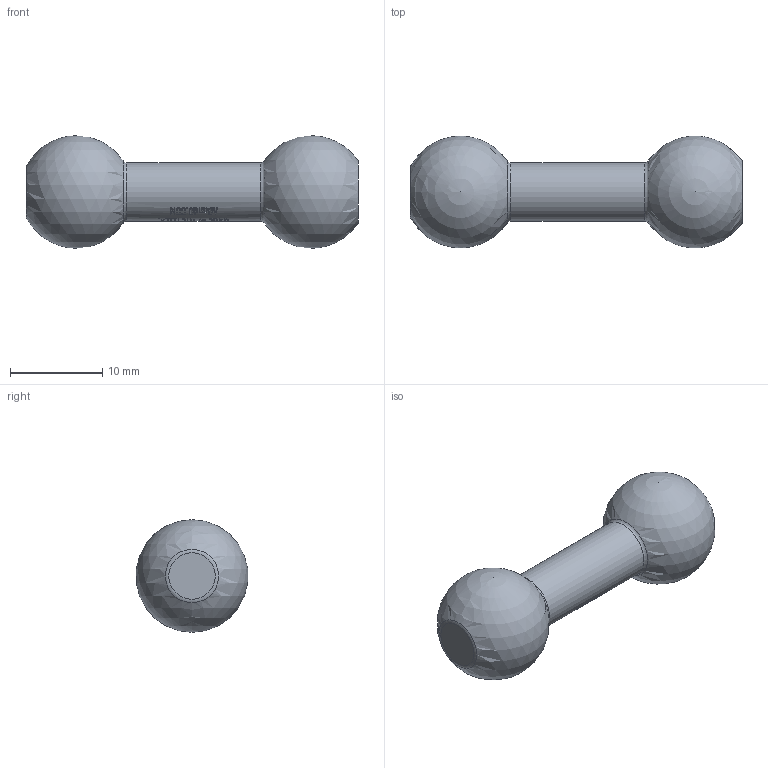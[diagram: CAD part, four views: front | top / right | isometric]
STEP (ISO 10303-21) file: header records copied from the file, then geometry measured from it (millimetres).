
FILE_DESCRIPTION(/* description */ ('JRPL 1IN HYPERLINK'),/* implementation_level */ '2;1');
FILE_NAME(/* name */ 'C:\Users\Shayne Riley\Documents\Vault\AD&D\Design Files\Pop-Link\JRPL Series Assemblies\JRPL-HLINK1IN.stp',/* time_stamp */ '2020-11-18T09:49:47-05:00',/* author */ ('Shayne Riley'),/* organization */ (''),/* preprocessor_version */ 'ST-DEVELOPER v18.1',/* originating_system */ 'Autodesk Inventor 2021',/* authorisation */ '');
FILE_SCHEMA (('AUTOMOTIVE_DESIGN { 1 0 10303 214 3 1 1 }'));
Length unit declared in the file: inch
Products named in the file (3): JRPL-HLINK1IN; 60267; 60266
Assembly tree (2 placements, depth 2):
  JRPL-HLINK1IN
    60267
    60266
Bounding box: 35.92 x 12.1 x 12.19 mm (x, y, z)
Volume: 2127.8 mm3; surface area: 1520.9 mm2
Topology: 2 solids, 2 shells, 713 faces, 1923 edges, 1281 vertices
Faces by surface type: plane 459, bspline 169, cylinder 72, torus 6, cone 5, sphere 2
Full cylindrical faces by diameter (mm): 4.724 x1, 4.762 x2, 4.788 x1, 6.306 x1
Entity records: 25734 total; most frequent: CARTESIAN_POINT 8329, ORIENTED_EDGE 3834, DIRECTION 3172, EDGE_CURVE 1917, VERTEX_POINT 1281, LINE 1084, VECTOR 1084, AXIS2_PLACEMENT_3D 1044
